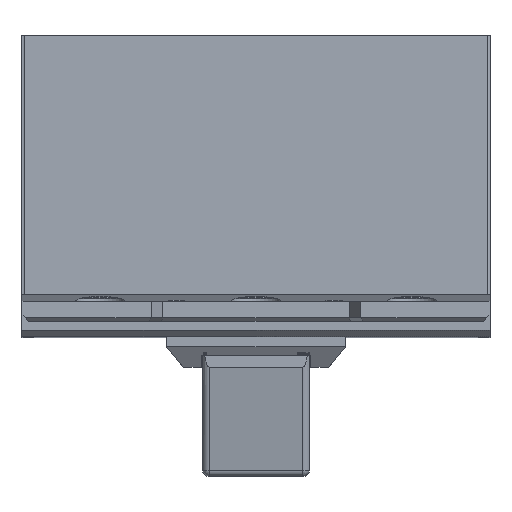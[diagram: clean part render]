
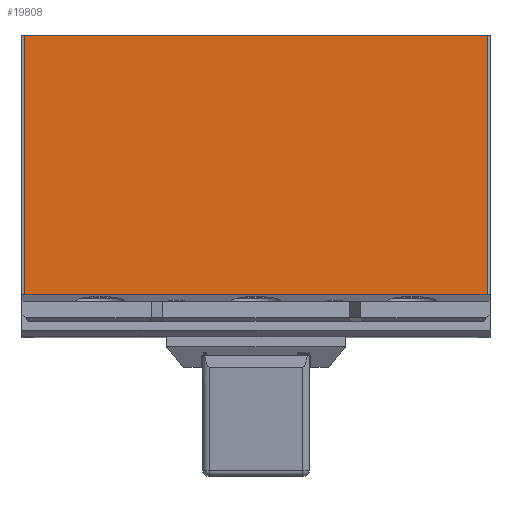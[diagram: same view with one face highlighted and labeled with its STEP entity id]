
A CAD part, top view. The second image highlights one B-rep face of the part: STEP entity #19808.
In plain terms, the highlighted planar face has unit normal (0, 0, 1).
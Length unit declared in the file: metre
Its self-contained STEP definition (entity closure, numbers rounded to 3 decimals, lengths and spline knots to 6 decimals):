
#1640=FACE_OUTER_BOUND('',#2783,.T.);
#2783=EDGE_LOOP('',(#16392,#16393,#16394,#16395));
#4871=LINE('',#31377,#7174);
#4873=LINE('',#31381,#7176);
#4874=LINE('',#31383,#7177);
#4875=LINE('',#31384,#7178);
#7174=VECTOR('',#25518,0.116);
#7176=VECTOR('',#25522,0.2074);
#7177=VECTOR('',#25523,0.116);
#7178=VECTOR('',#25524,0.2074);
#9095=VERTEX_POINT('',#31374);
#9096=VERTEX_POINT('',#31376);
#9097=VERTEX_POINT('',#31380);
#9098=VERTEX_POINT('',#31382);
#11639=EDGE_CURVE('',#9096,#9095,#4871,.T.);
#11641=EDGE_CURVE('',#9095,#9097,#4873,.T.);
#11642=EDGE_CURVE('',#9098,#9097,#4874,.T.);
#11643=EDGE_CURVE('',#9096,#9098,#4875,.T.);
#16392=ORIENTED_EDGE('',*,*,#11639,.T.);
#16393=ORIENTED_EDGE('',*,*,#11641,.T.);
#16394=ORIENTED_EDGE('',*,*,#11642,.F.);
#16395=ORIENTED_EDGE('',*,*,#11643,.F.);
#18819=PLANE('',#21177);
#19808=ADVANCED_FACE('',(#1640),#18819,.T.);
#21177=AXIS2_PLACEMENT_3D('',#31379,#25520,#25521);
#25518=DIRECTION('',(0.,-1.,0.));
#25520=DIRECTION('center_axis',(0.,0.,1.));
#25521=DIRECTION('ref_axis',(1.,0.,0.));
#25522=DIRECTION('',(1.,0.,0.));
#25523=DIRECTION('',(0.,-1.,0.));
#25524=DIRECTION('',(1.,0.,0.));
#31374=CARTESIAN_POINT('',(-0.1037,0.003,0.2305));
#31376=CARTESIAN_POINT('',(-0.1037,0.119,0.2305));
#31377=CARTESIAN_POINT('',(-0.1037,0.119,0.2305));
#31379=CARTESIAN_POINT('Origin',(-0.105,0.119,0.2305));
#31380=CARTESIAN_POINT('',(0.1037,0.003,0.2305));
#31381=CARTESIAN_POINT('',(-0.1037,0.003,0.2305));
#31382=CARTESIAN_POINT('',(0.1037,0.119,0.2305));
#31383=CARTESIAN_POINT('',(0.1037,0.119,0.2305));
#31384=CARTESIAN_POINT('',(-0.1037,0.119,0.2305));
